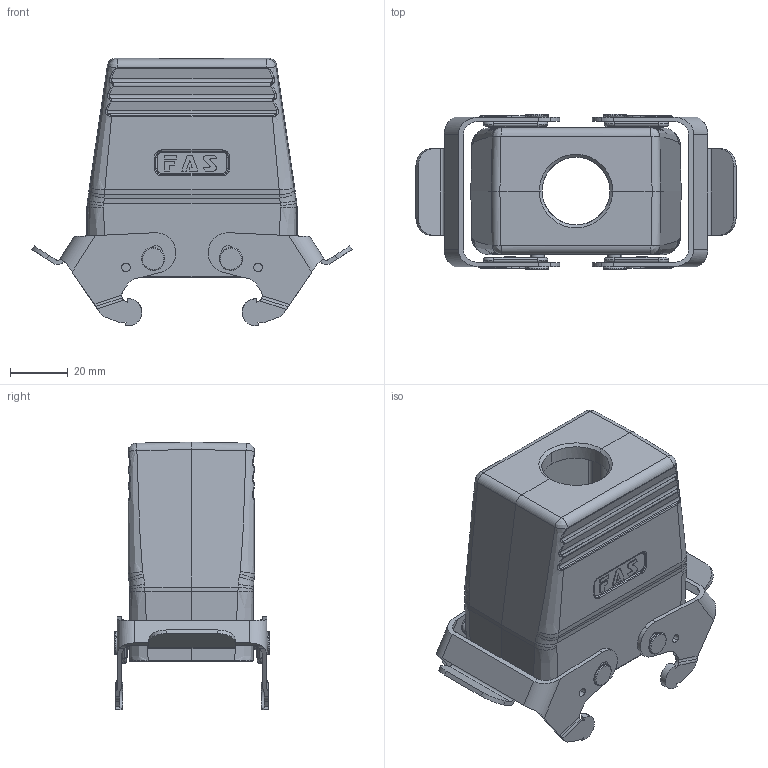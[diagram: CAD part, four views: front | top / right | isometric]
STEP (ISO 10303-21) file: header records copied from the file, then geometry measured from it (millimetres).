
FILE_DESCRIPTION (( 'STEP AP203' ), '1' );
FILE_NAME ('H10-TGBH-M25&32.STEP', '2020-11-21T03:24:56', ( '' ), ( '' ), 'SwSTEP 2.0', 'SolidWorks 2016', '' );
FILE_SCHEMA (( 'CONFIG_CONTROL_DESIGN' ));
Length unit declared in the file: millimetre
Products named in the file (8): MAODING_1; JINSHUSHUANGKOU; TANHUANG; MAODING; 24BCAIXINSHUANGKOU; H10B-TGH-俋褲; H10-TGBH-M25&32; TANHUANG_1
Assembly tree (8 placements, depth 3):
  H10-TGBH-M25&32
    JINSHUSHUANGKOU  x2
      24BCAIXINSHUANGKOU
      MAODING
      MAODING_1
      TANHUANG
      TANHUANG_1
    H10B-TGH-俋褲
Bounding box: 111.15 x 54 x 92.89 mm (x, y, z)
Volume: 82130.3 mm3; surface area: 46926.3 mm2
Topology: 11 solids, 11 shells, 825 faces, 2074 edges, 1291 vertices
Faces by surface type: cylinder 299, plane 246, bspline 236, cone 44
Entity records: 29714 total; most frequent: CARTESIAN_POINT 15037, ORIENTED_EDGE 3190, DIRECTION 2539, EDGE_CURVE 1595, VERTEX_POINT 987, AXIS2_PLACEMENT_3D 943, EDGE_LOOP 682, LINE 653
